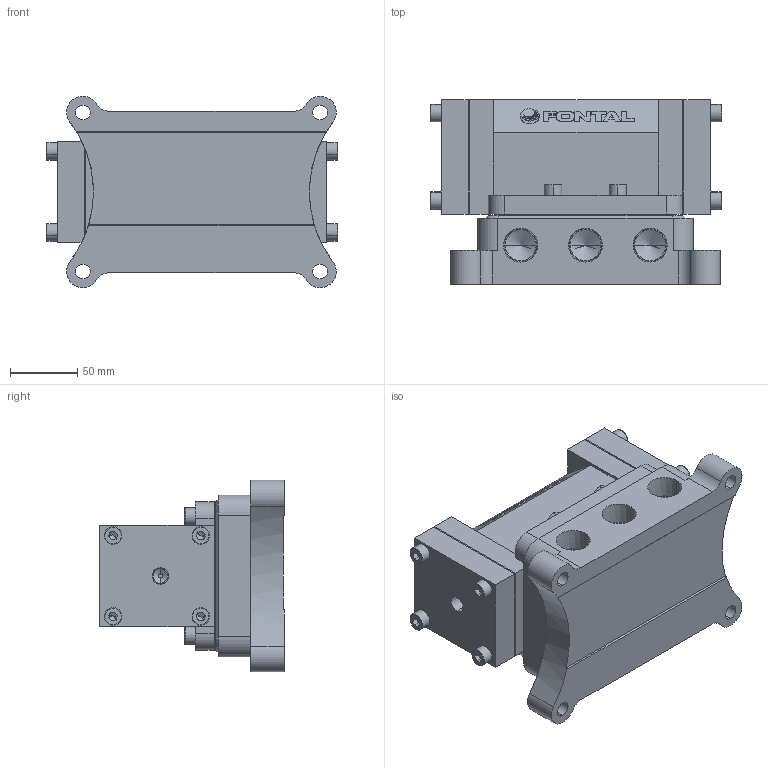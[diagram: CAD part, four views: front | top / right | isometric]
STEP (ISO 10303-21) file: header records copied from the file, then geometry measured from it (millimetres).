
FILE_DESCRIPTION (( 'STEP AP203' ), '1' );
FILE_NAME ('VMD2425-06.STEP', '2016-01-13T18:37:06', ( '' ), ( '' ), 'SwSTEP 2.0', 'SolidWorks 2014', '' );
FILE_SCHEMA (( 'CONFIG_CONTROL_DESIGN' ));
Length unit declared in the file: millimetre
Products named in the file (8): PMS2425-4; PMS2425-1; PMS2425-2; ISO 4762 M8; PM25底座-1; PM25-MARK-24; VMD2425-06; VMS2425-1
Assembly tree (20 placements, depth 2):
  VMD2425-06
    PMS2425-1
    PMS2425-2  x2
    ISO 4762 M8  x12
    PMS2425-4
    PM25-MARK-24
    VMS2425-1  x2
    PM25底座-1
Bounding box: 216 x 137 x 142 mm (x, y, z)
Volume: 2220698.2 mm3; surface area: 271653 mm2
Topology: 26 solids, 26 shells, 600 faces, 1396 edges, 851 vertices
Faces by surface type: plane 327, cylinder 141, cone 76, torus 48, bspline 8
Entity records: 9564 total; most frequent: CARTESIAN_POINT 1589, DIRECTION 1446, ORIENTED_EDGE 1364, EDGE_CURVE 682, AXIS2_PLACEMENT_3D 501, VERTEX_POINT 446, VECTOR 444, LINE 444
